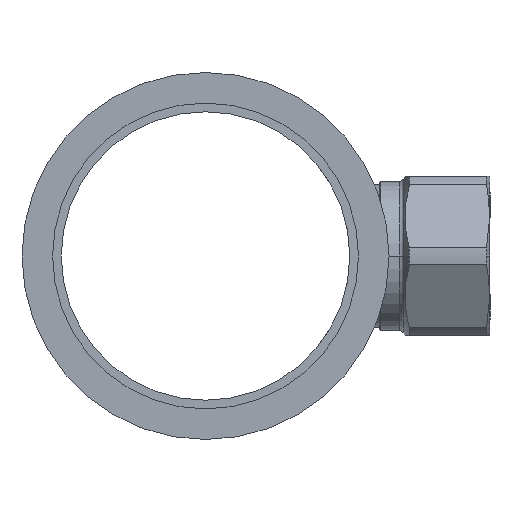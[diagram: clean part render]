
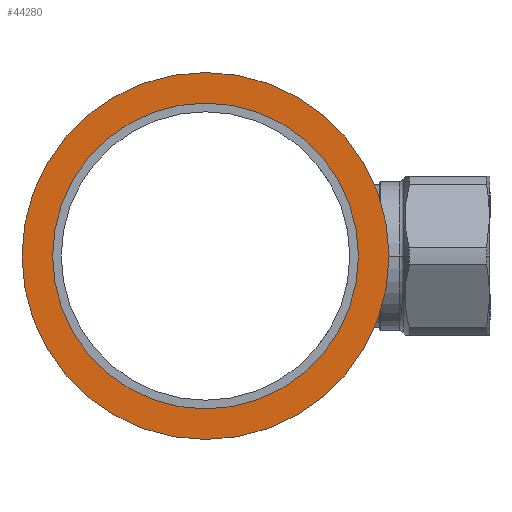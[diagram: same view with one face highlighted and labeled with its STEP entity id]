
A CAD part, left-side view. The second image highlights one B-rep face of the part: STEP entity #44280.
In plain terms, the highlighted planar face has unit normal (-1, 0, 0).
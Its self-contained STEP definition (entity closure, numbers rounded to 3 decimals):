
#43800=CARTESIAN_POINT('',(53.136,49.095,-30.75));
#43810=VERTEX_POINT('',#43800);
#43840=CARTESIAN_POINT('',(53.136,49.095,
0.));
#43850=DIRECTION('',(1.,0.,0.));
#43860=DIRECTION('',(0.,0.,1.));
#43870=AXIS2_PLACEMENT_3D('',#43840,#43850,#43860);
#43880=CIRCLE('',#43870,30.75);
#43890=CARTESIAN_POINT('',(53.136,49.095,30.75));
#43900=VERTEX_POINT('',#43890);
#43910=EDGE_CURVE('',#43810,#43900,#43880,.T.);
#44030=CARTESIAN_POINT('',(53.136,49.095,-35.85));
#44040=DIRECTION('',(1.,0.,0.));
#44050=DIRECTION('',(0.,0.,1.));
#44060=AXIS2_PLACEMENT_3D('',#44030,#44040,#44050);
#44070=PLANE('',#44060);
#44080=EDGE_CURVE('',#43900,#43810,#43880,.T.);
#44090=ORIENTED_EDGE('',*,*,#44080,.T.);
#44100=ORIENTED_EDGE('',*,*,#43910,.T.);
#44110=EDGE_LOOP('',(#44100,#44090));
#44120=FACE_BOUND('',#44110,.T.);
#44130=CARTESIAN_POINT('',(53.136,49.095,
0.));
#44140=DIRECTION('',(1.,0.,0.));
#44150=DIRECTION('',(0.,0.,-1.));
#44160=AXIS2_PLACEMENT_3D('',#44130,#44140,#44150);
#44170=CIRCLE('',#44160,36.9);
#44180=CARTESIAN_POINT('',(53.136,49.095,-36.9));
#44190=VERTEX_POINT('',#44180);
#44200=CARTESIAN_POINT('',(53.136,49.095,36.9));
#44210=VERTEX_POINT('',#44200);
#44220=EDGE_CURVE('',#44190,#44210,#44170,.T.);
#44230=ORIENTED_EDGE('',*,*,#44220,.F.);
#44240=EDGE_CURVE('',#44210,#44190,#44170,.T.);
#44250=ORIENTED_EDGE('',*,*,#44240,.F.);
#44260=EDGE_LOOP('',(#44250,#44230));
#44270=FACE_OUTER_BOUND('',#44260,.T.);
#44280=ADVANCED_FACE('',(#44120,#44270),#44070,.F.);
